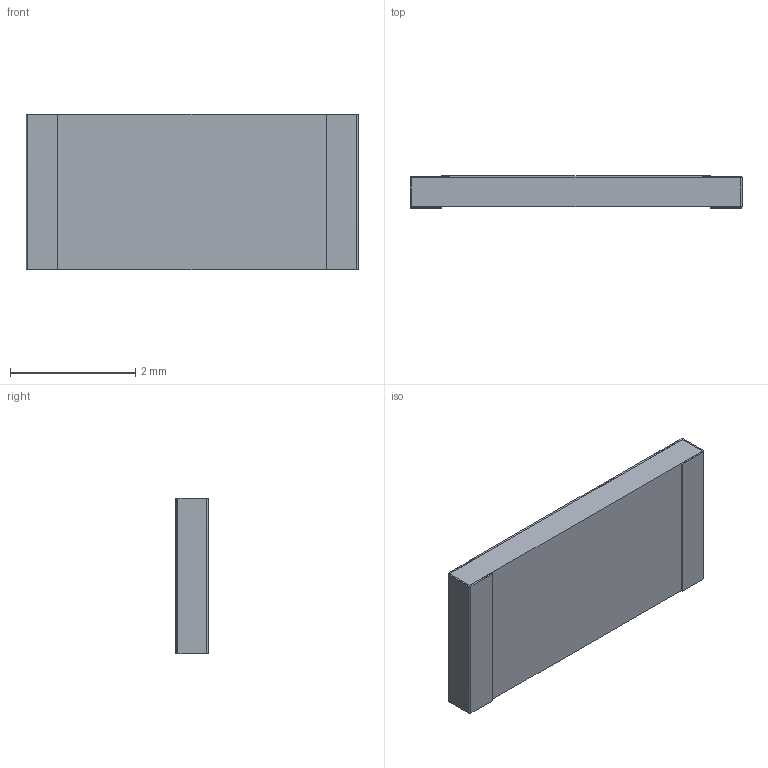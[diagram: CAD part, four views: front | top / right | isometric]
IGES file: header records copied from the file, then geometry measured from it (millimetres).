
Global section: file name: M55342-08; native system: Autodesk Inventor LT ; preprocessor: unknown; author: Neil; date: 20190911.151022; units: inch
Bounding box: 5.31 x 0.52 x 2.49 mm (x, y, z)
Volume: 6.5 mm3; surface area: 86.5 mm2
Topology: 5 solids, 5 shells, 50 faces, 120 edges, 80 vertices
Faces by surface type: bspline 50
